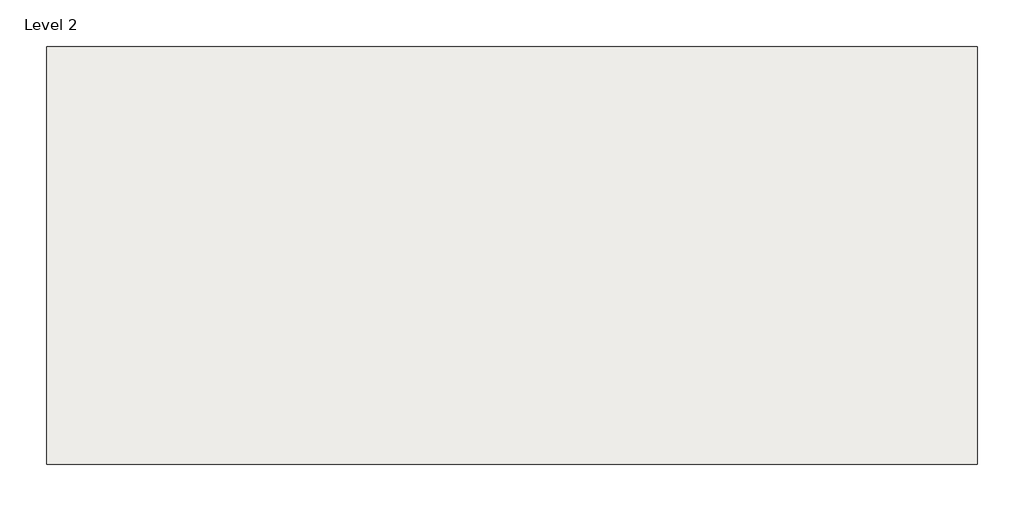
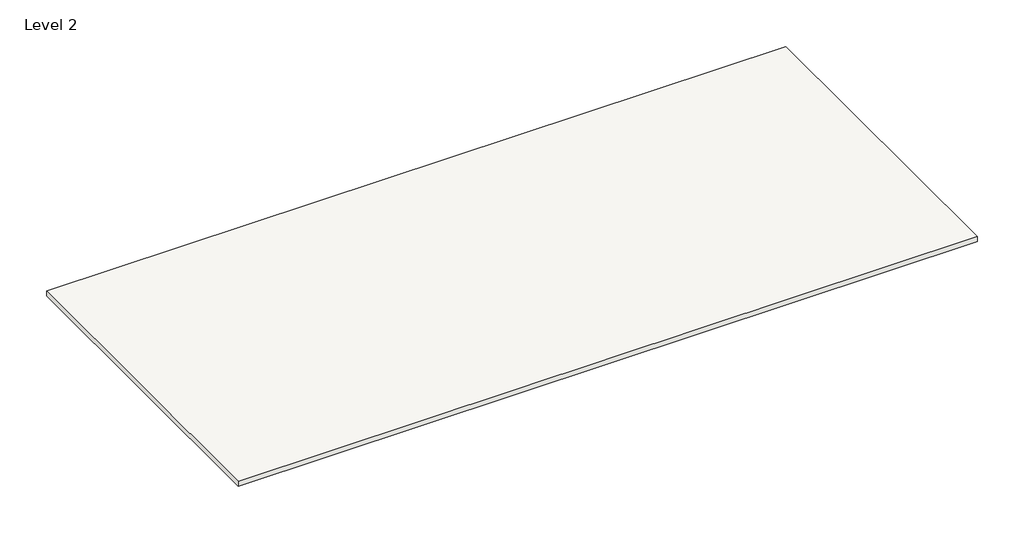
# One storey: 1 covering.
"""IFC4 building model written with IfcOpenShell, lengths in millimetres."""

from ifc_helpers import new_model, si_unit, frame, origin, place, context, project, spatial, polyline, outline, extrude, element, save

model = new_model("IFC4")

# Units and contexts
model_context = context("Model", 3, world=origin())
ifc_project = project(units=[si_unit("LENGTHUNIT", "METRE", prefix="MILLI")], contexts=[model_context])

# Site, building, storey
site = spatial("IfcSite", under=ifc_project)
building = spatial("IfcBuilding", under=site)
storey = spatial("IfcBuildingStorey", under=building, Name="Level 2", Elevation=5000.0)

# Covering
placement = place(None, origin())
element("IfcCovering", 1, ObjectType="GWB on Mtl Stud", at=placement, inside=storey, context=model_context, shape_type="SweptSolid", body=[
    extrude(outline(polyline([(-705.090184, 4615.2076786), (-705.090184, 1025.2076786), (-8705.090184, 1025.2076786), (-8705.090184, 4615.2076786), (-705.090184, 4615.2076786)])), frame((0.0, 0.0, 5000.0), z_axis=(0.0, 0.0, 1.0), x_axis=(1.0, 0.0, 0.0)), (0.0, 0.0, 1.0), 57.0),
])

save(model, "model.ifc")
